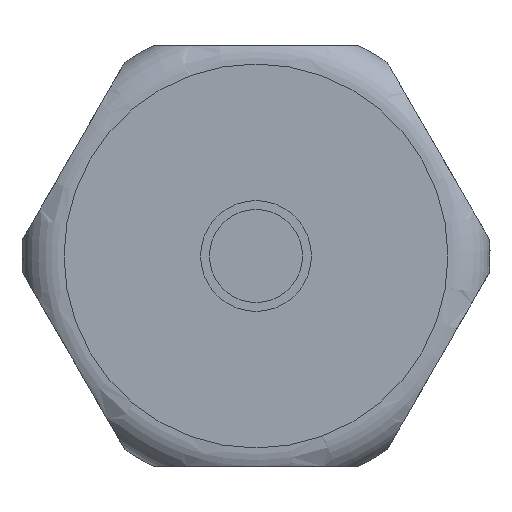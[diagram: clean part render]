
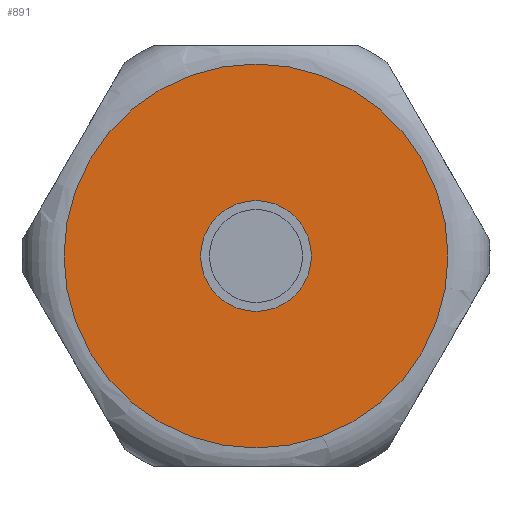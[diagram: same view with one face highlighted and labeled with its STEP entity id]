
A CAD part, left-side view. The second image highlights one B-rep face of the part: STEP entity #891.
In plain terms, the highlighted planar face has unit normal (-1, 0, 0).
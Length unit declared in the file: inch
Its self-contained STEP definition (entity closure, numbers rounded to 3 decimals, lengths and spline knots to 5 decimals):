
#41=FACE_BOUND('',#149,.T.);
#60=PLANE('',#1013);
#97=FACE_OUTER_BOUND('',#148,.T.);
#148=EDGE_LOOP('',(#700,#701));
#149=EDGE_LOOP('',(#702,#703));
#258=CIRCLE('',#969,0.14764);
#259=CIRCLE('',#970,0.14764);
#285=CIRCLE('',#1014,0.51181);
#286=CIRCLE('',#1015,0.51181);
#339=VERTEX_POINT('',#1424);
#340=VERTEX_POINT('',#1425);
#379=VERTEX_POINT('',#1685);
#380=VERTEX_POINT('',#1686);
#439=EDGE_CURVE('',#339,#340,#258,.T.);
#440=EDGE_CURVE('',#340,#339,#259,.T.);
#496=EDGE_CURVE('',#379,#380,#285,.T.);
#497=EDGE_CURVE('',#380,#379,#286,.T.);
#700=ORIENTED_EDGE('',*,*,#496,.F.);
#701=ORIENTED_EDGE('',*,*,#497,.F.);
#702=ORIENTED_EDGE('',*,*,#439,.T.);
#703=ORIENTED_EDGE('',*,*,#440,.T.);
#891=ADVANCED_FACE('',(#97,#41),#60,.T.);
#969=AXIS2_PLACEMENT_3D('',#1426,#1147,#1148);
#970=AXIS2_PLACEMENT_3D('',#1427,#1149,#1150);
#1013=AXIS2_PLACEMENT_3D('',#1684,#1251,#1252);
#1014=AXIS2_PLACEMENT_3D('',#1687,#1253,#1254);
#1015=AXIS2_PLACEMENT_3D('',#1688,#1255,#1256);
#1147=DIRECTION('center_axis',(1.,0.,0.));
#1148=DIRECTION('ref_axis',(0.,-0.866,0.5));
#1149=DIRECTION('center_axis',(1.,0.,0.));
#1150=DIRECTION('ref_axis',(0.,-0.866,0.5));
#1251=DIRECTION('center_axis',(-1.,0.,0.));
#1252=DIRECTION('ref_axis',(0.,-0.866,0.5));
#1253=DIRECTION('center_axis',(1.,0.,0.));
#1254=DIRECTION('ref_axis',(0.,0.866,-0.5));
#1255=DIRECTION('center_axis',(1.,0.,0.));
#1256=DIRECTION('ref_axis',(0.,0.866,-0.5));
#1424=CARTESIAN_POINT('',(-2.66747,-0.02656,-0.27052));
#1425=CARTESIAN_POINT('',(-2.66747,0.22916,-0.41816));
#1426=CARTESIAN_POINT('Origin',(-2.66747,0.1013,-0.34434));
#1427=CARTESIAN_POINT('Origin',(-2.66747,0.1013,-0.34434));
#1684=CARTESIAN_POINT('Origin',(-2.66747,0.54454,-0.60025));
#1685=CARTESIAN_POINT('',(-2.66747,0.54454,-0.60025));
#1686=CARTESIAN_POINT('',(-2.66747,-0.34194,-0.08844));
#1687=CARTESIAN_POINT('Origin',(-2.66747,0.1013,-0.34434));
#1688=CARTESIAN_POINT('Origin',(-2.66747,0.1013,-0.34434));
